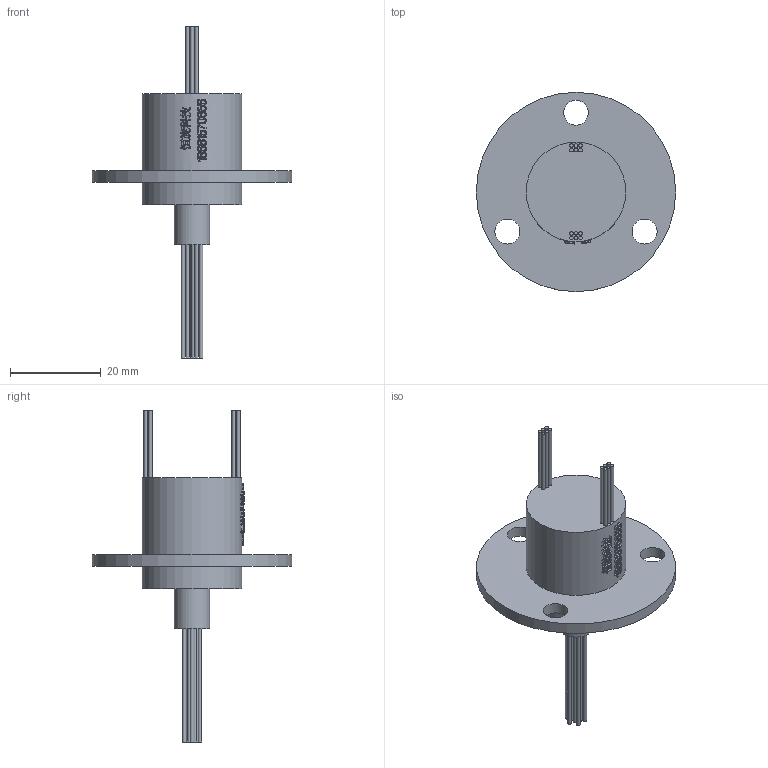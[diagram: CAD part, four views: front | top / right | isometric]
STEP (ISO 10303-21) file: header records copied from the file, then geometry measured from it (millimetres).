
FILE_DESCRIPTION(/* description */ (''),/* implementation_level */ '2;1');
FILE_NAME(/* name */ 'HM022-12.stp',/* time_stamp */ '2025-09-23T10:02:09+08:00',/* author */ (''),/* organization */ (''),/* preprocessor_version */ 'ST-DEVELOPER v16.7',/* originating_system */ 'SIEMENS PLM Software NX 12.0',/* authorisation */ '');
FILE_SCHEMA (('AUTOMOTIVE_DESIGN { 1 0 10303 214 3 1 1 1 }'));
Length unit declared in the file: millimetre
Products named in the file (1): Admi3294BFCC0mbw
Bounding box: 44 x 44 x 73.3 mm (x, y, z)
Volume: 12655.9 mm3; surface area: 6414 mm2
Topology: 1 solids, 1 shells, 589 faces, 1571 edges, 1048 vertices
Faces by surface type: extrusion 311, plane 210, cylinder 42, bspline 26
Full cylindrical faces by diameter (mm): 0.8 x24, 5.5 x3, 7.8 x1, 22 x2, 44 x1
Entity records: 23928 total; most frequent: CARTESIAN_POINT 11666, ORIENTED_EDGE 3076, B_SPLINE_CURVE_WITH_KNOTS 1557, EDGE_CURVE 1538, DIRECTION 1303, VERTEX_POINT 1046, EDGE_LOOP 690, ADVANCED_FACE 589
